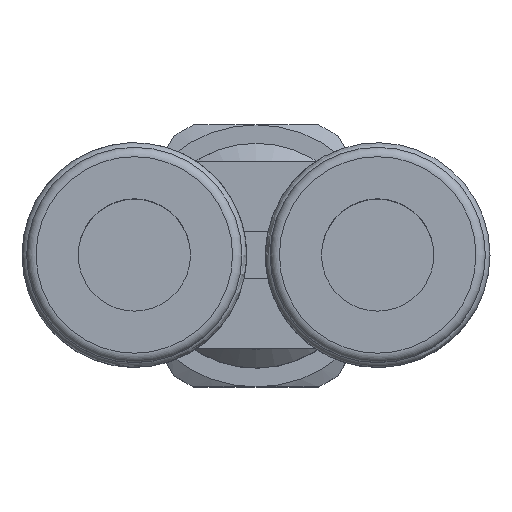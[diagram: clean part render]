
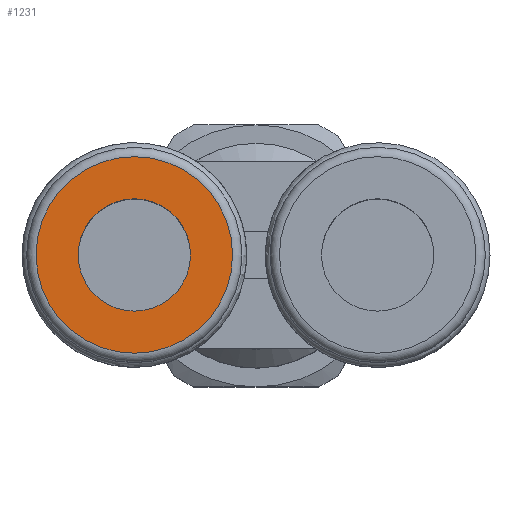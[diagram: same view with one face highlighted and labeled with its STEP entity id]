
A CAD part, top view. The second image highlights one B-rep face of the part: STEP entity #1231.
In plain terms, the highlighted planar face has unit normal (0, 0, 1).
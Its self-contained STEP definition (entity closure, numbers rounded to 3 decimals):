
#211=PLANE($,#1355);
#239=FACE_BOUND($,#385,.T.);
#240=FACE_BOUND($,#386,.T.);
#385=EDGE_LOOP($,(#962));
#386=EDGE_LOOP($,(#963));
#487=CIRCLE($,#1347,3.);
#489=CIRCLE($,#1351,5.25);
#578=VERTEX_POINT($,#2041);
#580=VERTEX_POINT($,#2047);
#717=EDGE_CURVE($,#578,#578,#487,.T.);
#719=EDGE_CURVE($,#580,#580,#489,.T.);
#962=ORIENTED_EDGE($,*,*,#717,.F.);
#963=ORIENTED_EDGE($,*,*,#719,.T.);
#1231=ADVANCED_FACE($,(#239,#240),#211,.T.);
#1347=AXIS2_PLACEMENT_3D($,#2042,#1590,#1591);
#1351=AXIS2_PLACEMENT_3D($,#2048,#1598,#1599);
#1355=AXIS2_PLACEMENT_3D($,#2054,#1606,#1607);
#1590=DIRECTION('center_axis',(0.,0.,1.));
#1591=DIRECTION('ref_axis',(-1.,0.,0.));
#1598=DIRECTION('center_axis',(0.,0.,1.));
#1599=DIRECTION('ref_axis',(1.,0.,0.));
#1606=DIRECTION('center_axis',(0.,0.,1.));
#1607=DIRECTION('ref_axis',(1.,0.,0.));
#2041=CARTESIAN_POINT('',(-9.5,0.,30.1));
#2042=CARTESIAN_POINT('Origin',(-6.5,0.,30.1));
#2047=CARTESIAN_POINT('',(-11.75,0.,30.1));
#2048=CARTESIAN_POINT('Origin',(-6.5,0.,30.1));
#2054=CARTESIAN_POINT('Origin',(-6.5,0.,30.1));
